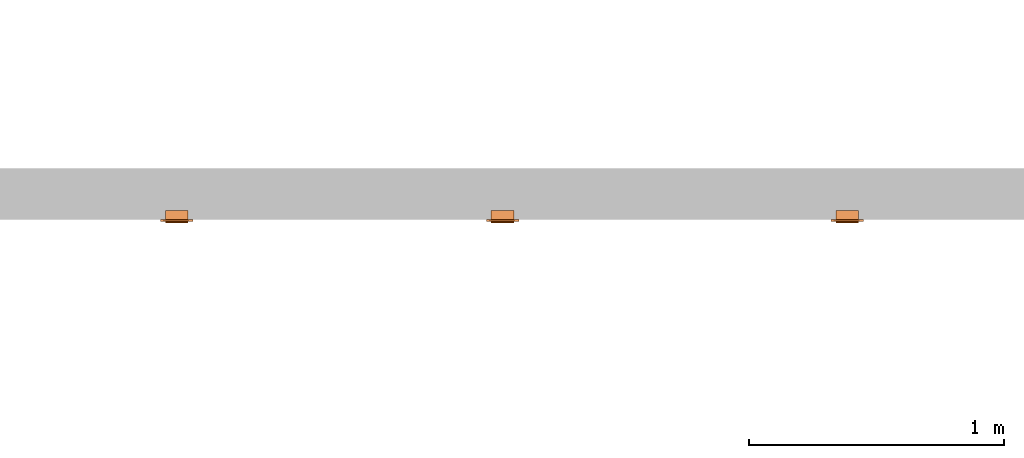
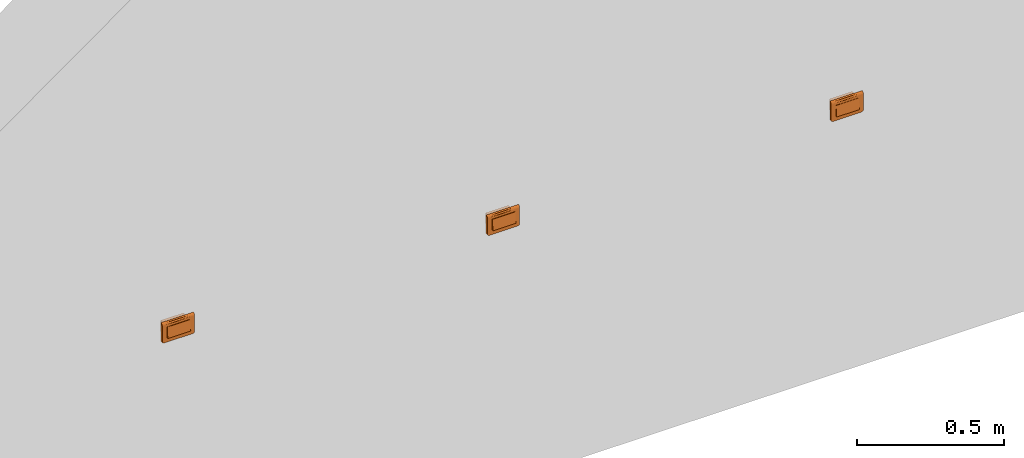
# One storey, part 145 of 197: 3 proxies.
"""IFC2X3 building model written with IfcOpenShell, lengths in metres."""

from ifc_helpers import new_model, entity, si_unit, converted_unit, direction, frame, origin, place, context, subcontext, project, spatial, faceted_brep, source, transform, mapped, material, material_list, type_object, type_shapes, element, save


model = new_model("IFC2X3")

# Units and contexts
model_context = context("Model", 3, precision=1e-05, world=origin(), true_north=direction((6.123031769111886e-17, 1.0)))
body_context = subcontext(model_context, "Body", "Model", "MODEL_VIEW")
ifc_project = project(units=[si_unit("LENGTHUNIT", "METRE"), converted_unit("PLANEANGLEUNIT", "DEGREE", entity("IfcPlaneAngleMeasure", 0.017453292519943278), si_unit("PLANEANGLEUNIT", "RADIAN"), dimensions=[0, 0, 0, 0, 0, 0, 0]), si_unit("AREAUNIT", "SQUARE_METRE")], contexts=[model_context])

# Site, building, storey
site_placement = place(None, origin())
site = spatial("IfcSite", under=ifc_project, at=site_placement, Name="Default", CompositionType="ELEMENT")
building_placement = place(site_placement, origin())
building = spatial("IfcBuilding", under=site, at=building_placement, CompositionType="ELEMENT")
storey_placement = place(building_placement, origin())
storey = spatial("IfcBuildingStorey", under=building, at=storey_placement, Name="Niveau 0", CompositionType="ELEMENT", Elevation=0.0)

# Proxies
ifc_material_1 = material(Name="<Unnamed>")
ifc_material_2 = material(Name="BETCE-DOIGT-BLANC")
ifc_material_3 = material(Name="BETCE-ENJOLIVEUR-BLANC")
ifc_material_list = material_list([ifc_material_1, ifc_material_2, ifc_material_3])
building_element_proxy_type_1 = type_object("IfcBuildingElementProxyType", Name="Tableau commande 1x4 modules encastré:1 SA + 1 VV + 2BP", PredefinedType="NOTDEFINED", material=ifc_material_list)
shared_shape_1 = source(origin(), body_context, "Body", "Brep", [
    faceted_brep([(0.04499999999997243, 0.0, 0.022499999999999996), (0.04499999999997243, 0.03499999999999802, 0.022499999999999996), (0.02249999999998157, 0.03499999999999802, 0.022499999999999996), (0.02249999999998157, 0.0, 0.022499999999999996), (0.04499999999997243, 0.0, -0.022500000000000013), (0.02249999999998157, 0.0, -0.022500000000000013), (0.02249999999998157, 0.03499999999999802, -0.022500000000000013), (0.04499999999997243, 0.03499999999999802, -0.022500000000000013)], [[[0, 1, 2, 3]], [[4, 5, 6, 7]], [[1, 0, 4, 7]], [[2, 1, 7, 6]], [[3, 2, 6, 5]], [[0, 3, 5, 4]]]),
    faceted_brep([(0.02249999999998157, 0.0, 0.022499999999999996), (0.02249999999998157, 0.034999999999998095, 0.022499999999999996), (0.0, 0.034999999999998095, 0.022499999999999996), (0.0, 0.0, 0.022499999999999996), (0.02249999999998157, 0.0, -0.022500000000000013), (0.0, 0.0, -0.022500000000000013), (0.0, 0.034999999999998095, -0.022500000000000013), (0.02249999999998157, 0.034999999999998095, -0.022500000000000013)], [[[0, 1, 2, 3]], [[4, 5, 6, 7]], [[1, 0, 4, 7]], [[2, 1, 7, 6]], [[3, 2, 6, 5]], [[0, 3, 5, 4]]]),
    faceted_brep([(0.0, 0.0, 0.022499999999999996), (0.0, 0.034999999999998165, 0.022499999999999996), (-0.02250000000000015, 0.034999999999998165, 0.022499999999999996), (-0.02250000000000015, 0.0, 0.022499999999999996), (0.0, 0.0, -0.022500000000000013), (-0.02250000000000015, 0.0, -0.022500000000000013), (-0.02250000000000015, 0.034999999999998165, -0.022500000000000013), (0.0, 0.034999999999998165, -0.022500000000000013)], [[[0, 1, 2, 3]], [[4, 5, 6, 7]], [[1, 0, 4, 7]], [[2, 1, 7, 6]], [[3, 2, 6, 5]], [[0, 3, 5, 4]]]),
    faceted_brep([(-0.02250000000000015, 0.0, 0.022499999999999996), (-0.02250000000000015, 0.034999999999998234, 0.022499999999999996), (-0.044999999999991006, 0.034999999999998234, 0.022499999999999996), (-0.044999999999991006, 0.0, 0.022499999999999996), (-0.02250000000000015, 0.0, -0.022500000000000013), (-0.044999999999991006, 0.0, -0.022500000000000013), (-0.044999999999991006, 0.034999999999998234, -0.022500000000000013), (-0.02250000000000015, 0.034999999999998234, -0.022500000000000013)], [[[0, 1, 2, 3]], [[4, 5, 6, 7]], [[1, 0, 4, 7]], [[2, 1, 7, 6]], [[3, 2, 6, 5]], [[0, 3, 5, 4]]]),
    faceted_brep([(0.022500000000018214, -0.010500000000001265, 0.022499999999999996), (0.02250000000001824, -0.015000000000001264, -0.022500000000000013), (0.0450000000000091, -0.01500000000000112, -0.022500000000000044), (0.045000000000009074, -0.010500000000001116, 0.022499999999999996), (0.02250000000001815, 0.0, -0.022500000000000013), (0.02250000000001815, 0.0, 0.022499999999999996), (0.045000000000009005, 0.0, 0.022499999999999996), (0.045000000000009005, 0.0, -0.022500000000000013)], [[[0, 1, 2, 3]], [[4, 5, 6, 7]], [[5, 4, 1, 0]], [[6, 5, 0, 3]], [[7, 6, 3, 2]], [[4, 7, 2, 1]]]),
    faceted_brep([(-0.044999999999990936, -0.010500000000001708, 0.022500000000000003), (-0.044999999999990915, -0.015000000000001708, -0.022500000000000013), (-0.022500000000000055, -0.015000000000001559, -0.022499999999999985), (-0.022500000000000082, -0.01050000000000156, 0.022499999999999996), (-0.044999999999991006, 0.0, -0.022500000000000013), (-0.044999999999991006, 0.0, 0.022499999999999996), (-0.02250000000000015, 0.0, 0.022499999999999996), (-0.02250000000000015, 0.0, -0.022500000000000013)], [[[0, 1, 2, 3]], [[4, 5, 6, 7]], [[5, 4, 1, 0]], [[6, 5, 0, 3]], [[7, 6, 3, 2]], [[4, 7, 2, 1]]]),
    faceted_brep([(0.0, -0.010500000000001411, 0.022500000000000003), (0.0, -0.015000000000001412, -0.022500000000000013), (0.022499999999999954, -0.015000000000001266, -0.022500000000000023), (0.022499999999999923, -0.010500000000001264, 0.022499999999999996), (0.0, 0.0, -0.022500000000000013), (0.0, 0.0, 0.022499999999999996), (0.02249999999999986, 0.0, 0.022499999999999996), (0.02249999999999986, 0.0, -0.022500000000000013)], [[[0, 1, 2, 3]], [[4, 5, 6, 7]], [[5, 4, 1, 0]], [[6, 5, 0, 3]], [[7, 6, 3, 2]], [[4, 7, 2, 1]]]),
    faceted_brep([(-0.02250000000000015, 0.0, -0.022500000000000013), (-0.02250000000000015, 0.0, 0.022499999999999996), (0.0, 0.0, 0.022499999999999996), (0.0, 0.0, -0.022500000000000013), (-0.022500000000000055, -0.01500000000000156, -0.022500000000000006), (-0.022500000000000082, -0.010500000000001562, 0.022499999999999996), (0.0, -0.010500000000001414, 0.022499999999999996), (0.0, -0.015000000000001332, -0.022500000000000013)], [[[0, 1, 2, 3]], [[1, 0, 4, 5]], [[2, 1, 5, 6]], [[3, 2, 6, 7]], [[0, 3, 7, 4]], [[5, 4, 7, 6]]]),
    faceted_brep([(0.06350000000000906, -0.009000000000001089, -0.03299999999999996), (0.06350000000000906, -0.009000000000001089, 0.031999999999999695), (0.045000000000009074, -0.009000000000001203, -0.022500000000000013), (0.055500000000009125, -0.009000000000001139, -0.04099999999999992), (0.05757055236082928, -0.009000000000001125, -0.04072740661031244), (0.059500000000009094, -0.009000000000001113, -0.0399282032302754), (0.061156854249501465, -0.009000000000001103, -0.03865685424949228), (0.06322740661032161, -0.00900000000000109, -0.03507055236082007), (0.04500000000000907, -0.009000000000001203, 0.022499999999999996), (-0.04499999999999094, -0.009000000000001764, 0.022499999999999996), (-0.011124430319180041, -0.009000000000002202, 0.03199999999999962), (-0.06349999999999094, -0.009000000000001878, 0.031999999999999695), (-0.04499999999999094, -0.009000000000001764, -0.022500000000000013), (-0.06349999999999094, -0.009000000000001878, -0.032999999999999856), (-0.055499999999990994, -0.00900000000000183, -0.04099999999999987), (-0.05757055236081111, -0.009000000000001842, -0.040727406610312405), (-0.059499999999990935, -0.009000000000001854, -0.039928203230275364), (-0.06115685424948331, -0.009000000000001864, -0.038656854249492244), (-0.06322740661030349, -0.009000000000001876, -0.035070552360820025), (-0.06242820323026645, -0.009000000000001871, -0.03699999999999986), (0.062428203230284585, -0.009000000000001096, -0.036999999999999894), (-0.063499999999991, 0.0, -0.03299999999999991), (-0.063499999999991, 0.0, 0.04100000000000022), (-0.044999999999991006, 0.0, 0.022499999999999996), (-0.044999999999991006, 0.0, -0.022500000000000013), (-0.05549999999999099, 0.0, -0.04099999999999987), (-0.05757055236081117, 0.0, -0.040727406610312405), (-0.05949999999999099, 0.0, -0.039928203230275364), (-0.06322740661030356, 0.0, -0.035070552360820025), (0.045000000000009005, 0.0, 0.022499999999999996), (0.011124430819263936, 0.0, 0.041000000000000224), (0.063500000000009, 0.0, 0.041000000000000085), (0.06350000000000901, 0.0, -0.03299999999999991), (0.04500000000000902, 0.0, -0.022500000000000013), (0.05550000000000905, 0.0, -0.040999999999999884), (0.057570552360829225, 0.0, -0.04072740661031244), (0.05950000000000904, 0.0, -0.0399282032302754), (0.06322740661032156, 0.0, -0.03507055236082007), (0.06115685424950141, 0.0, -0.03865685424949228), (0.06242820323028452, 0.0, -0.036999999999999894), (-0.06115685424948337, 0.0, -0.038656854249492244), (-0.062428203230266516, 0.0, -0.03699999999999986), (0.06350000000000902, -0.002329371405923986, 0.04069333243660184), (0.06350000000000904, -0.004500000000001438, 0.03979422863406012), (0.06350000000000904, -0.006363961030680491, 0.038363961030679), (0.06350000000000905, -0.007794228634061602, 0.03649999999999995), (0.06350000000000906, -0.008693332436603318, 0.0343293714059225), (-0.06349999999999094, -0.008693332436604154, 0.03432937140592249), (-0.06349999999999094, -0.0077942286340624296, 0.03649999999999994), (-0.06349999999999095, -0.006363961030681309, 0.038363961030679), (-0.06349999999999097, -0.004500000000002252, 0.039794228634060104), (-0.06349999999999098, -0.002329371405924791, 0.04069333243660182), (-0.010857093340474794, -0.006120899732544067, 0.03859807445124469)], [[[0, 1, 2]], [[3, 0, 2]], [[0, 3, 4]], [[0, 4, 5]], [[5, 6, 0]], [[7, 0, 6]], [[2, 1, 8]], [[1, 9, 8]], [[9, 1, 10]], [[9, 10, 11]], [[12, 9, 11]], [[13, 12, 11]], [[14, 12, 13]], [[14, 13, 15]], [[16, 15, 13]], [[13, 17, 16]], [[17, 13, 18]], [[17, 18, 19]], [[12, 14, 3]], [[2, 12, 3]], [[20, 7, 6]], [[21, 22, 23]], [[24, 21, 23]], [[25, 21, 24]], [[21, 25, 26]], [[21, 26, 27]], [[28, 21, 27]], [[22, 29, 23]], [[29, 22, 30]], [[29, 30, 31]], [[32, 29, 31]], [[33, 29, 32]], [[34, 33, 32]], [[34, 32, 35]], [[36, 35, 32]], [[36, 32, 37]], [[37, 38, 36]], [[38, 37, 39]], [[33, 34, 25]], [[24, 33, 25]], [[27, 40, 28]], [[41, 28, 40]], [[1, 0, 32, 31, 42, 43, 44, 45, 46]], [[37, 32, 0, 7]], [[39, 37, 7, 20]], [[38, 39, 20, 6]], [[36, 38, 6, 5]], [[35, 36, 5, 4]], [[34, 35, 4, 3]], [[25, 34, 3, 14]], [[26, 25, 14, 15]], [[27, 26, 15, 16]], [[40, 27, 16, 17]], [[41, 40, 17, 19]], [[28, 41, 19, 18]], [[21, 28, 18, 13]], [[22, 21, 13, 11, 47, 48, 49, 50, 51]], [[24, 23, 9, 12]], [[33, 24, 12, 2]], [[29, 33, 2, 8]], [[23, 29, 8, 9]], [[52, 10, 45]], [[47, 11, 10]], [[1, 46, 10]], [[44, 52, 45]], [[46, 45, 10]], [[50, 52, 51]], [[48, 47, 10]], [[30, 52, 43]], [[48, 52, 49]], [[42, 31, 30]], [[30, 22, 51]], [[48, 10, 52]], [[30, 43, 42]], [[44, 43, 52]], [[52, 50, 49]], [[52, 30, 51]]]),
])
type_shapes(building_element_proxy_type_1, [shared_shape_1])
proxy_1_placement = place(storey_placement, frame((-379.83077966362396, 122.781355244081, 1.1)))
element("IfcBuildingElementProxy", 1, at=proxy_1_placement, inside=storey, type_object=building_element_proxy_type_1, material=ifc_material_list, Name="Tableau commande 1x4 modules encastré:1 SA + 1 VV + 2BP", ObjectType="Tableau commande 1x4 modules encastré:1 SA + 1 VV + 2BP", context=body_context, shape_type="MappedRepresentation", body=[
    mapped(shared_shape_1, transform((0.0, 0.0, 0.0), scale=1.0)),
])
building_element_proxy_type_2 = type_object("IfcBuildingElementProxyType", Name="Tableau commande 1x4 modules encastré:1 SA + 3 BP", PredefinedType="NOTDEFINED", material=ifc_material_list)
shared_shape_2 = source(origin(), body_context, "Body", "Brep", [
    faceted_brep([(0.04499999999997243, 0.0, 0.022499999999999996), (0.04499999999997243, 0.03499999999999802, 0.022499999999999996), (0.02249999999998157, 0.03499999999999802, 0.022499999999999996), (0.02249999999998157, 0.0, 0.022499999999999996), (0.04499999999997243, 0.0, -0.022500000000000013), (0.02249999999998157, 0.0, -0.022500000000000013), (0.02249999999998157, 0.03499999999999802, -0.022500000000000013), (0.04499999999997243, 0.03499999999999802, -0.022500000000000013)], [[[0, 1, 2, 3]], [[4, 5, 6, 7]], [[1, 0, 4, 7]], [[2, 1, 7, 6]], [[3, 2, 6, 5]], [[0, 3, 5, 4]]]),
    faceted_brep([(0.02249999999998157, 0.0, 0.022499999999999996), (0.02249999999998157, 0.034999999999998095, 0.022499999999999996), (0.0, 0.034999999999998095, 0.022499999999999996), (0.0, 0.0, 0.022499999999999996), (0.02249999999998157, 0.0, -0.022500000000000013), (0.0, 0.0, -0.022500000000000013), (0.0, 0.034999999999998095, -0.022500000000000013), (0.02249999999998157, 0.034999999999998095, -0.022500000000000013)], [[[0, 1, 2, 3]], [[4, 5, 6, 7]], [[1, 0, 4, 7]], [[2, 1, 7, 6]], [[3, 2, 6, 5]], [[0, 3, 5, 4]]]),
    faceted_brep([(0.0, 0.0, 0.022499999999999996), (0.0, 0.034999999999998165, 0.022499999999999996), (-0.02250000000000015, 0.034999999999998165, 0.022499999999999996), (-0.02250000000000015, 0.0, 0.022499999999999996), (0.0, 0.0, -0.022500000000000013), (-0.02250000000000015, 0.0, -0.022500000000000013), (-0.02250000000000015, 0.034999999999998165, -0.022500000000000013), (0.0, 0.034999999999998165, -0.022500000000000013)], [[[0, 1, 2, 3]], [[4, 5, 6, 7]], [[1, 0, 4, 7]], [[2, 1, 7, 6]], [[3, 2, 6, 5]], [[0, 3, 5, 4]]]),
    faceted_brep([(-0.02250000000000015, 0.0, 0.022499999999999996), (-0.02250000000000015, 0.034999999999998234, 0.022499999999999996), (-0.044999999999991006, 0.034999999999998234, 0.022499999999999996), (-0.044999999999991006, 0.0, 0.022499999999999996), (-0.02250000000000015, 0.0, -0.022500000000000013), (-0.044999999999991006, 0.0, -0.022500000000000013), (-0.044999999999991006, 0.034999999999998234, -0.022500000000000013), (-0.02250000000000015, 0.034999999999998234, -0.022500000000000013)], [[[0, 1, 2, 3]], [[4, 5, 6, 7]], [[1, 0, 4, 7]], [[2, 1, 7, 6]], [[3, 2, 6, 5]], [[0, 3, 5, 4]]]),
    faceted_brep([(0.022500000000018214, -0.010500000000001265, 0.022499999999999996), (0.02250000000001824, -0.015000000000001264, -0.022500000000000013), (0.0450000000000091, -0.01500000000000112, -0.022500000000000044), (0.045000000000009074, -0.010500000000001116, 0.022499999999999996), (0.02250000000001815, 0.0, -0.022500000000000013), (0.02250000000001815, 0.0, 0.022499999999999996), (0.045000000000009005, 0.0, 0.022499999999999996), (0.045000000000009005, 0.0, -0.022500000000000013)], [[[0, 1, 2, 3]], [[4, 5, 6, 7]], [[5, 4, 1, 0]], [[6, 5, 0, 3]], [[7, 6, 3, 2]], [[4, 7, 2, 1]]]),
    faceted_brep([(-0.044999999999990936, -0.010500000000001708, 0.022500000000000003), (-0.044999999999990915, -0.015000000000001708, -0.022500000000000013), (-0.022500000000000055, -0.015000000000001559, -0.022499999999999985), (-0.022500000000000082, -0.01050000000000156, 0.022499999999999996), (-0.044999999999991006, 0.0, -0.022500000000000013), (-0.044999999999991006, 0.0, 0.022499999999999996), (-0.02250000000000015, 0.0, 0.022499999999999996), (-0.02250000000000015, 0.0, -0.022500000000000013)], [[[0, 1, 2, 3]], [[4, 5, 6, 7]], [[5, 4, 1, 0]], [[6, 5, 0, 3]], [[7, 6, 3, 2]], [[4, 7, 2, 1]]]),
    faceted_brep([(0.0, -0.010500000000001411, 0.022500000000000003), (0.0, -0.015000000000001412, -0.022500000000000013), (0.022499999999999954, -0.015000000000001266, -0.022500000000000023), (0.022499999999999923, -0.010500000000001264, 0.022499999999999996), (0.0, 0.0, -0.022500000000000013), (0.0, 0.0, 0.022499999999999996), (0.02249999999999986, 0.0, 0.022499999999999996), (0.02249999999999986, 0.0, -0.022500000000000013)], [[[0, 1, 2, 3]], [[4, 5, 6, 7]], [[5, 4, 1, 0]], [[6, 5, 0, 3]], [[7, 6, 3, 2]], [[4, 7, 2, 1]]]),
    faceted_brep([(-0.02250000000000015, 0.0, -0.022500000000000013), (-0.02250000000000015, 0.0, 0.022499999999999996), (0.0, 0.0, 0.022499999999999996), (0.0, 0.0, -0.022500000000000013), (-0.022500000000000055, -0.01500000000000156, -0.022500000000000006), (-0.022500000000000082, -0.010500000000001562, 0.022499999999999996), (0.0, -0.010500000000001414, 0.022499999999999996), (0.0, -0.015000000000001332, -0.022500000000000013)], [[[0, 1, 2, 3]], [[1, 0, 4, 5]], [[2, 1, 5, 6]], [[3, 2, 6, 7]], [[0, 3, 7, 4]], [[5, 4, 7, 6]]]),
    faceted_brep([(0.06350000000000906, -0.009000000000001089, -0.03299999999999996), (0.06350000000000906, -0.009000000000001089, 0.031999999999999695), (0.045000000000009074, -0.009000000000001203, -0.022500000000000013), (0.055500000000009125, -0.009000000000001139, -0.04099999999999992), (0.05757055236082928, -0.009000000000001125, -0.04072740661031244), (0.059500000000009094, -0.009000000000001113, -0.0399282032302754), (0.061156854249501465, -0.009000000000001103, -0.03865685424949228), (0.06322740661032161, -0.00900000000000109, -0.03507055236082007), (0.04500000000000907, -0.009000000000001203, 0.022499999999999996), (-0.04499999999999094, -0.009000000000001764, 0.022499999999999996), (-0.011124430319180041, -0.009000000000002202, 0.03199999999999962), (-0.06349999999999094, -0.009000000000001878, 0.031999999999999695), (-0.04499999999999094, -0.009000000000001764, -0.022500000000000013), (-0.06349999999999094, -0.009000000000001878, -0.032999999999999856), (-0.055499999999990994, -0.00900000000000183, -0.04099999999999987), (-0.05757055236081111, -0.009000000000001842, -0.040727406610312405), (-0.059499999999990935, -0.009000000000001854, -0.039928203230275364), (-0.06115685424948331, -0.009000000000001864, -0.038656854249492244), (-0.06322740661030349, -0.009000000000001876, -0.035070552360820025), (-0.06242820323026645, -0.009000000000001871, -0.03699999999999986), (0.062428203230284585, -0.009000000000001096, -0.036999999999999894), (-0.063499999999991, 0.0, -0.03299999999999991), (-0.063499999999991, 0.0, 0.04100000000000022), (-0.044999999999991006, 0.0, 0.022499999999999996), (-0.044999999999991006, 0.0, -0.022500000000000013), (-0.05549999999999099, 0.0, -0.04099999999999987), (-0.05757055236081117, 0.0, -0.040727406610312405), (-0.05949999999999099, 0.0, -0.039928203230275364), (-0.06322740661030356, 0.0, -0.035070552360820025), (0.045000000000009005, 0.0, 0.022499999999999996), (0.011124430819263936, 0.0, 0.041000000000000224), (0.063500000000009, 0.0, 0.041000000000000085), (0.06350000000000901, 0.0, -0.03299999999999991), (0.04500000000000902, 0.0, -0.022500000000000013), (0.05550000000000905, 0.0, -0.040999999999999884), (0.057570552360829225, 0.0, -0.04072740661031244), (0.05950000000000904, 0.0, -0.0399282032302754), (0.06322740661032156, 0.0, -0.03507055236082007), (0.06115685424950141, 0.0, -0.03865685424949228), (0.06242820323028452, 0.0, -0.036999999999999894), (-0.06115685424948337, 0.0, -0.038656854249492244), (-0.062428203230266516, 0.0, -0.03699999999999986), (0.06350000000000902, -0.002329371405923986, 0.04069333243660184), (0.06350000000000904, -0.004500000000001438, 0.03979422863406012), (0.06350000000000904, -0.006363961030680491, 0.038363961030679), (0.06350000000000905, -0.007794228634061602, 0.03649999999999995), (0.06350000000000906, -0.008693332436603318, 0.0343293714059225), (-0.06349999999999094, -0.008693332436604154, 0.03432937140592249), (-0.06349999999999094, -0.0077942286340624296, 0.03649999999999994), (-0.06349999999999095, -0.006363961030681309, 0.038363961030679), (-0.06349999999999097, -0.004500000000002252, 0.039794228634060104), (-0.06349999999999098, -0.002329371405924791, 0.04069333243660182), (-0.010857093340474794, -0.006120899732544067, 0.03859807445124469)], [[[0, 1, 2]], [[3, 0, 2]], [[0, 3, 4]], [[0, 4, 5]], [[5, 6, 0]], [[7, 0, 6]], [[2, 1, 8]], [[1, 9, 8]], [[9, 1, 10]], [[9, 10, 11]], [[12, 9, 11]], [[13, 12, 11]], [[14, 12, 13]], [[14, 13, 15]], [[16, 15, 13]], [[13, 17, 16]], [[17, 13, 18]], [[17, 18, 19]], [[12, 14, 3]], [[2, 12, 3]], [[20, 7, 6]], [[21, 22, 23]], [[24, 21, 23]], [[25, 21, 24]], [[21, 25, 26]], [[21, 26, 27]], [[28, 21, 27]], [[22, 29, 23]], [[29, 22, 30]], [[29, 30, 31]], [[32, 29, 31]], [[33, 29, 32]], [[34, 33, 32]], [[34, 32, 35]], [[36, 35, 32]], [[36, 32, 37]], [[37, 38, 36]], [[38, 37, 39]], [[33, 34, 25]], [[24, 33, 25]], [[27, 40, 28]], [[41, 28, 40]], [[1, 0, 32, 31, 42, 43, 44, 45, 46]], [[37, 32, 0, 7]], [[39, 37, 7, 20]], [[38, 39, 20, 6]], [[36, 38, 6, 5]], [[35, 36, 5, 4]], [[34, 35, 4, 3]], [[25, 34, 3, 14]], [[26, 25, 14, 15]], [[27, 26, 15, 16]], [[40, 27, 16, 17]], [[41, 40, 17, 19]], [[28, 41, 19, 18]], [[21, 28, 18, 13]], [[22, 21, 13, 11, 47, 48, 49, 50, 51]], [[24, 23, 9, 12]], [[33, 24, 12, 2]], [[29, 33, 2, 8]], [[23, 29, 8, 9]], [[52, 10, 45]], [[47, 11, 10]], [[1, 46, 10]], [[44, 52, 45]], [[46, 45, 10]], [[50, 52, 51]], [[48, 47, 10]], [[30, 52, 43]], [[48, 52, 49]], [[42, 31, 30]], [[30, 22, 51]], [[48, 10, 52]], [[30, 43, 42]], [[44, 43, 52]], [[52, 50, 49]], [[52, 30, 51]]]),
])
type_shapes(building_element_proxy_type_2, [shared_shape_2])
proxy_2_placement = place(storey_placement, frame((-378.55177966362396, 122.781355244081, 1.1)))
element("IfcBuildingElementProxy", 2, at=proxy_2_placement, inside=storey, type_object=building_element_proxy_type_2, material=ifc_material_list, Name="Tableau commande 1x4 modules encastré:1 SA + 3 BP", ObjectType="Tableau commande 1x4 modules encastré:1 SA + 3 BP", context=body_context, shape_type="MappedRepresentation", body=[
    mapped(shared_shape_2, transform((0.0, 0.0, 0.0), scale=1.0)),
])
building_element_proxy_type_3 = type_object("IfcBuildingElementProxyType", Name="Tableau commande 1x4 modules encastré:1 VV + 3 BP", PredefinedType="NOTDEFINED", material=ifc_material_list)
shared_shape_3 = source(origin(), body_context, "Body", "Brep", [
    faceted_brep([(0.04499999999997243, 0.0, 0.022499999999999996), (0.04499999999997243, 0.03499999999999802, 0.022499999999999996), (0.02249999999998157, 0.03499999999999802, 0.022499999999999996), (0.02249999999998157, 0.0, 0.022499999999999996), (0.04499999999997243, 0.0, -0.022500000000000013), (0.02249999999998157, 0.0, -0.022500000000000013), (0.02249999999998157, 0.03499999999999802, -0.022500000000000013), (0.04499999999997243, 0.03499999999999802, -0.022500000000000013)], [[[0, 1, 2, 3]], [[4, 5, 6, 7]], [[1, 0, 4, 7]], [[2, 1, 7, 6]], [[3, 2, 6, 5]], [[0, 3, 5, 4]]]),
    faceted_brep([(0.02249999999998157, 0.0, 0.022499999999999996), (0.02249999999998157, 0.034999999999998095, 0.022499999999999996), (0.0, 0.034999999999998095, 0.022499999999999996), (0.0, 0.0, 0.022499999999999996), (0.02249999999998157, 0.0, -0.022500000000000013), (0.0, 0.0, -0.022500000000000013), (0.0, 0.034999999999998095, -0.022500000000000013), (0.02249999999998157, 0.034999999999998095, -0.022500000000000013)], [[[0, 1, 2, 3]], [[4, 5, 6, 7]], [[1, 0, 4, 7]], [[2, 1, 7, 6]], [[3, 2, 6, 5]], [[0, 3, 5, 4]]]),
    faceted_brep([(0.0, 0.0, 0.022499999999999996), (0.0, 0.034999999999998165, 0.022499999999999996), (-0.02250000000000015, 0.034999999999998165, 0.022499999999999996), (-0.02250000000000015, 0.0, 0.022499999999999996), (0.0, 0.0, -0.022500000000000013), (-0.02250000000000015, 0.0, -0.022500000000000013), (-0.02250000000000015, 0.034999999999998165, -0.022500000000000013), (0.0, 0.034999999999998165, -0.022500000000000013)], [[[0, 1, 2, 3]], [[4, 5, 6, 7]], [[1, 0, 4, 7]], [[2, 1, 7, 6]], [[3, 2, 6, 5]], [[0, 3, 5, 4]]]),
    faceted_brep([(-0.02250000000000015, 0.0, 0.022499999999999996), (-0.02250000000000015, 0.034999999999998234, 0.022499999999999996), (-0.044999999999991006, 0.034999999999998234, 0.022499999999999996), (-0.044999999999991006, 0.0, 0.022499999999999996), (-0.02250000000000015, 0.0, -0.022500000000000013), (-0.044999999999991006, 0.0, -0.022500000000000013), (-0.044999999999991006, 0.034999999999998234, -0.022500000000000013), (-0.02250000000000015, 0.034999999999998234, -0.022500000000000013)], [[[0, 1, 2, 3]], [[4, 5, 6, 7]], [[1, 0, 4, 7]], [[2, 1, 7, 6]], [[3, 2, 6, 5]], [[0, 3, 5, 4]]]),
    faceted_brep([(0.022500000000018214, -0.010500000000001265, 0.022499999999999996), (0.02250000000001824, -0.015000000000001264, -0.022500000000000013), (0.0450000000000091, -0.01500000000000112, -0.022500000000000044), (0.045000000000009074, -0.010500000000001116, 0.022499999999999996), (0.02250000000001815, 0.0, -0.022500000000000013), (0.02250000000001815, 0.0, 0.022499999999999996), (0.045000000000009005, 0.0, 0.022499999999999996), (0.045000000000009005, 0.0, -0.022500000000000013)], [[[0, 1, 2, 3]], [[4, 5, 6, 7]], [[5, 4, 1, 0]], [[6, 5, 0, 3]], [[7, 6, 3, 2]], [[4, 7, 2, 1]]]),
    faceted_brep([(-0.044999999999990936, -0.010500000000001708, 0.022500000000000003), (-0.044999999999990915, -0.015000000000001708, -0.022500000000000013), (-0.022500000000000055, -0.015000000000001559, -0.022499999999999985), (-0.022500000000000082, -0.01050000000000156, 0.022499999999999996), (-0.044999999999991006, 0.0, -0.022500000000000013), (-0.044999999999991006, 0.0, 0.022499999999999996), (-0.02250000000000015, 0.0, 0.022499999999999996), (-0.02250000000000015, 0.0, -0.022500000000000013)], [[[0, 1, 2, 3]], [[4, 5, 6, 7]], [[5, 4, 1, 0]], [[6, 5, 0, 3]], [[7, 6, 3, 2]], [[4, 7, 2, 1]]]),
    faceted_brep([(0.0, -0.010500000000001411, 0.022500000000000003), (0.0, -0.015000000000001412, -0.022500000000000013), (0.022499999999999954, -0.015000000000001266, -0.022500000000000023), (0.022499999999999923, -0.010500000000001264, 0.022499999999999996), (0.0, 0.0, -0.022500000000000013), (0.0, 0.0, 0.022499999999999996), (0.02249999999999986, 0.0, 0.022499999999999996), (0.02249999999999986, 0.0, -0.022500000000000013)], [[[0, 1, 2, 3]], [[4, 5, 6, 7]], [[5, 4, 1, 0]], [[6, 5, 0, 3]], [[7, 6, 3, 2]], [[4, 7, 2, 1]]]),
    faceted_brep([(-0.02250000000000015, 0.0, -0.022500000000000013), (-0.02250000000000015, 0.0, 0.022499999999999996), (0.0, 0.0, 0.022499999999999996), (0.0, 0.0, -0.022500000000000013), (-0.022500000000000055, -0.01500000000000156, -0.022500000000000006), (-0.022500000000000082, -0.010500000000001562, 0.022499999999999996), (0.0, -0.010500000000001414, 0.022499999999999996), (0.0, -0.015000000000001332, -0.022500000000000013)], [[[0, 1, 2, 3]], [[1, 0, 4, 5]], [[2, 1, 5, 6]], [[3, 2, 6, 7]], [[0, 3, 7, 4]], [[5, 4, 7, 6]]]),
    faceted_brep([(0.06350000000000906, -0.009000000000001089, -0.03299999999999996), (0.06350000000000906, -0.009000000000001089, 0.031999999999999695), (0.045000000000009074, -0.009000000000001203, -0.022500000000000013), (0.055500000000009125, -0.009000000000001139, -0.04099999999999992), (0.05757055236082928, -0.009000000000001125, -0.04072740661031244), (0.059500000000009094, -0.009000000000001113, -0.0399282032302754), (0.061156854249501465, -0.009000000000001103, -0.03865685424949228), (0.06322740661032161, -0.00900000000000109, -0.03507055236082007), (0.04500000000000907, -0.009000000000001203, 0.022499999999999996), (-0.04499999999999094, -0.009000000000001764, 0.022499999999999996), (-0.011124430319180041, -0.009000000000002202, 0.03199999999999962), (-0.06349999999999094, -0.009000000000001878, 0.031999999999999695), (-0.04499999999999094, -0.009000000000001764, -0.022500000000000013), (-0.06349999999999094, -0.009000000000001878, -0.032999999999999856), (-0.055499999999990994, -0.00900000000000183, -0.04099999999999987), (-0.05757055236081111, -0.009000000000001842, -0.040727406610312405), (-0.059499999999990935, -0.009000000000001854, -0.039928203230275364), (-0.06115685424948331, -0.009000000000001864, -0.038656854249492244), (-0.06322740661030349, -0.009000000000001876, -0.035070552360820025), (-0.06242820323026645, -0.009000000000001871, -0.03699999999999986), (0.062428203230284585, -0.009000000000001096, -0.036999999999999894), (-0.063499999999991, 0.0, -0.03299999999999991), (-0.063499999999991, 0.0, 0.04100000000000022), (-0.044999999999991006, 0.0, 0.022499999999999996), (-0.044999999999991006, 0.0, -0.022500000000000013), (-0.05549999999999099, 0.0, -0.04099999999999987), (-0.05757055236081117, 0.0, -0.040727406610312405), (-0.05949999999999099, 0.0, -0.039928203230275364), (-0.06322740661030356, 0.0, -0.035070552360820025), (0.045000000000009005, 0.0, 0.022499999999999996), (0.011124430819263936, 0.0, 0.041000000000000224), (0.063500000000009, 0.0, 0.041000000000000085), (0.06350000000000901, 0.0, -0.03299999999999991), (0.04500000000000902, 0.0, -0.022500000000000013), (0.05550000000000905, 0.0, -0.040999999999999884), (0.057570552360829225, 0.0, -0.04072740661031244), (0.05950000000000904, 0.0, -0.0399282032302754), (0.06322740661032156, 0.0, -0.03507055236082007), (0.06115685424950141, 0.0, -0.03865685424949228), (0.06242820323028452, 0.0, -0.036999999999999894), (-0.06115685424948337, 0.0, -0.038656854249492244), (-0.062428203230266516, 0.0, -0.03699999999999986), (0.06350000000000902, -0.002329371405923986, 0.04069333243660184), (0.06350000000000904, -0.004500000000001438, 0.03979422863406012), (0.06350000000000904, -0.006363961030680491, 0.038363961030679), (0.06350000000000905, -0.007794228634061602, 0.03649999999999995), (0.06350000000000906, -0.008693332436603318, 0.0343293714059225), (-0.06349999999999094, -0.008693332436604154, 0.03432937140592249), (-0.06349999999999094, -0.0077942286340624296, 0.03649999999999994), (-0.06349999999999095, -0.006363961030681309, 0.038363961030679), (-0.06349999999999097, -0.004500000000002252, 0.039794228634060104), (-0.06349999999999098, -0.002329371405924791, 0.04069333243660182), (-0.010857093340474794, -0.006120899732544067, 0.03859807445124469)], [[[0, 1, 2]], [[3, 0, 2]], [[0, 3, 4]], [[0, 4, 5]], [[5, 6, 0]], [[7, 0, 6]], [[2, 1, 8]], [[1, 9, 8]], [[9, 1, 10]], [[9, 10, 11]], [[12, 9, 11]], [[13, 12, 11]], [[14, 12, 13]], [[14, 13, 15]], [[16, 15, 13]], [[13, 17, 16]], [[17, 13, 18]], [[17, 18, 19]], [[12, 14, 3]], [[2, 12, 3]], [[20, 7, 6]], [[21, 22, 23]], [[24, 21, 23]], [[25, 21, 24]], [[21, 25, 26]], [[21, 26, 27]], [[28, 21, 27]], [[22, 29, 23]], [[29, 22, 30]], [[29, 30, 31]], [[32, 29, 31]], [[33, 29, 32]], [[34, 33, 32]], [[34, 32, 35]], [[36, 35, 32]], [[36, 32, 37]], [[37, 38, 36]], [[38, 37, 39]], [[33, 34, 25]], [[24, 33, 25]], [[27, 40, 28]], [[41, 28, 40]], [[1, 0, 32, 31, 42, 43, 44, 45, 46]], [[37, 32, 0, 7]], [[39, 37, 7, 20]], [[38, 39, 20, 6]], [[36, 38, 6, 5]], [[35, 36, 5, 4]], [[34, 35, 4, 3]], [[25, 34, 3, 14]], [[26, 25, 14, 15]], [[27, 26, 15, 16]], [[40, 27, 16, 17]], [[41, 40, 17, 19]], [[28, 41, 19, 18]], [[21, 28, 18, 13]], [[22, 21, 13, 11, 47, 48, 49, 50, 51]], [[24, 23, 9, 12]], [[33, 24, 12, 2]], [[29, 33, 2, 8]], [[23, 29, 8, 9]], [[52, 10, 45]], [[47, 11, 10]], [[1, 46, 10]], [[44, 52, 45]], [[46, 45, 10]], [[50, 52, 51]], [[48, 47, 10]], [[30, 52, 43]], [[48, 52, 49]], [[42, 31, 30]], [[30, 22, 51]], [[48, 10, 52]], [[30, 43, 42]], [[44, 43, 52]], [[52, 50, 49]], [[52, 30, 51]]]),
])
type_shapes(building_element_proxy_type_3, [shared_shape_3])
proxy_3_placement = place(storey_placement, frame((-377.19977966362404, 122.781355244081, 1.1)))
element("IfcBuildingElementProxy", 3, at=proxy_3_placement, inside=storey, type_object=building_element_proxy_type_3, material=ifc_material_list, Name="Tableau commande 1x4 modules encastré:1 VV + 3 BP", ObjectType="Tableau commande 1x4 modules encastré:1 VV + 3 BP", context=body_context, shape_type="MappedRepresentation", body=[
    mapped(shared_shape_3, transform((0.0, 0.0, 0.0), scale=1.0)),
])

save(model, "model.ifc")
